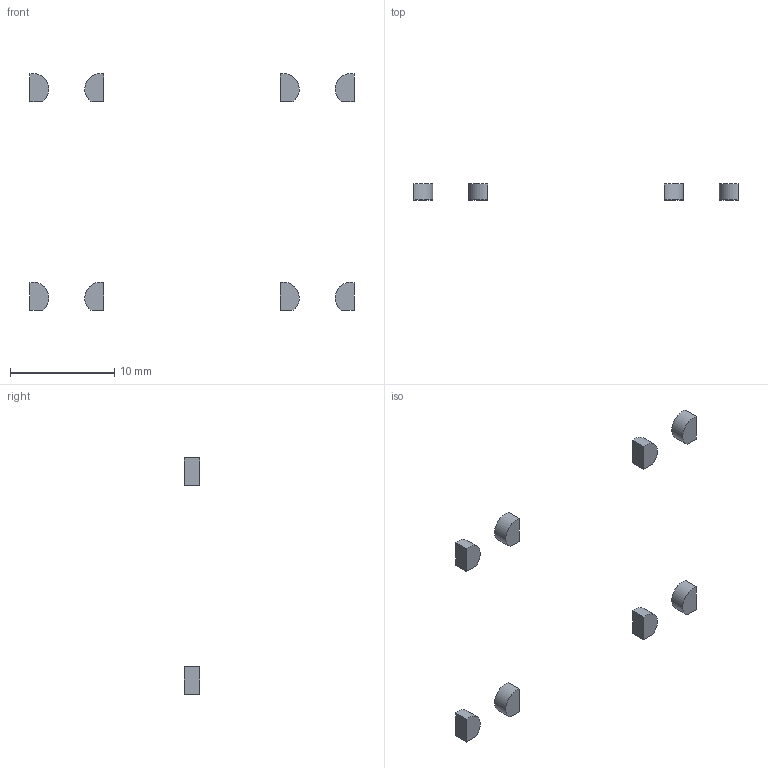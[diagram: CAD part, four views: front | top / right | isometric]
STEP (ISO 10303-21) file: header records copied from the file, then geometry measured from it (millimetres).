
FILE_DESCRIPTION(('Open CASCADE Model'),'2;1');
FILE_NAME('Open CASCADE Shape Model','2026-10-16T13:50:01',('Author'),( 'Open CASCADE'),'Open CASCADE STEP processor 8.0','build123d', 'Unknown');
FILE_SCHEMA(('AUTOMOTIVE_DESIGN { 1 0 10303 214 1 1 1 1 }'));
Length unit declared in the file: millimetre
Products named in the file (1): COMPOUND
Bounding box: 31.1 x 1.5 x 22.7 mm (x, y, z)
Volume: 50.8 mm3; surface area: 163.5 mm2
Topology: 8 solids, 8 shells, 40 faces, 72 edges, 48 vertices
Faces by surface type: plane 32, cylinder 8
Entity records: 1896 total; most frequent: CARTESIAN_POINT 385, DIRECTION 274, LINE 152, VECTOR 152, ORIENTED_EDGE 144, PCURVE 144, DEFINITIONAL_REPRESENTATION 144, EDGE_CURVE 72
